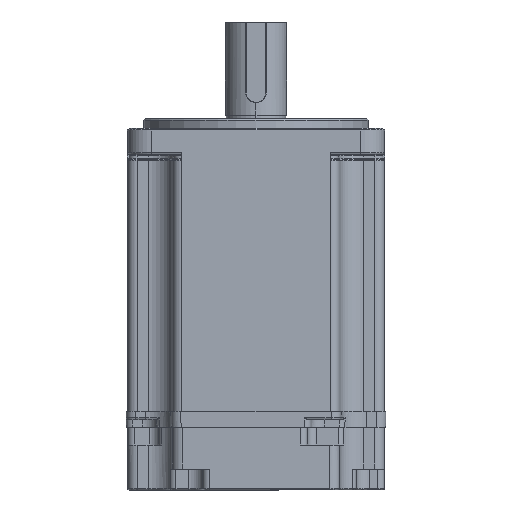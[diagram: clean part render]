
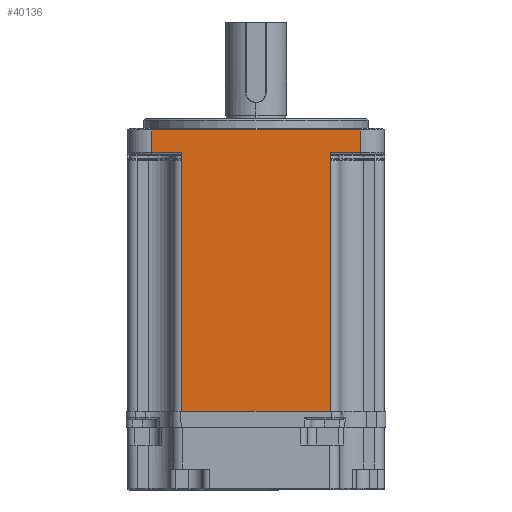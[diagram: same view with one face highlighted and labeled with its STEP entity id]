
A CAD part, front view. The second image highlights one B-rep face of the part: STEP entity #40136.
In plain terms, the highlighted planar face has unit normal (0, -1, 0) as drawn and (0, 1, 0) by its records, which use the part's own axes.
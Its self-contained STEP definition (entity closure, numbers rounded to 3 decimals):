
#38 = VERTEX_POINT ( 'NONE', #16547 ) ;
#919 = EDGE_CURVE ( 'NONE', #53324, #67155, #29741, .T. ) ;
#1593 = PLANE ( 'NONE',  #11967 ) ;
#1724 = VECTOR ( 'NONE', #90506, 1000. ) ;
#3970 = CARTESIAN_POINT ( 'NONE',  ( -23.05, 40., 65. ) ) ;
#4969 = VERTEX_POINT ( 'NONE', #74122 ) ;
#5652 = CARTESIAN_POINT ( 'NONE',  ( -32.5, 40., 65.4 ) ) ;
#9034 = ORIENTED_EDGE ( 'NONE', *, *, #82041, .T. ) ;
#10990 = CARTESIAN_POINT ( 'NONE',  ( -23.05, 40., -15. ) ) ;
#11112 = DIRECTION ( 'NONE',  ( 1., 0., 0. ) ) ;
#11967 = AXIS2_PLACEMENT_3D ( 'NONE', #37495, #59236, #23813 ) ;
#12419 = EDGE_CURVE ( 'NONE', #4969, #19858, #76786, .T. ) ;
#13296 = CARTESIAN_POINT ( 'NONE',  ( 23.05, 40., 65.4 ) ) ;
#15519 = ORIENTED_EDGE ( 'NONE', *, *, #84133, .T. ) ;
#15713 = CARTESIAN_POINT ( 'NONE',  ( 23.05, 40., 65. ) ) ;
#15717 = EDGE_CURVE ( 'NONE', #19858, #38, #42492, .T. ) ;
#15744 = DIRECTION ( 'NONE',  ( 0., 0., -1. ) ) ;
#16503 = CARTESIAN_POINT ( 'NONE',  ( 23.05, 40., 65. ) ) ;
#16547 = CARTESIAN_POINT ( 'NONE',  ( -32.5, 40., 65.4 ) ) ;
#17734 = DIRECTION ( 'NONE',  ( 0., 0., 1. ) ) ;
#18092 = DIRECTION ( 'NONE',  ( 1., 0., 0. ) ) ;
#18562 = LINE ( 'NONE', #10990, #40475 ) ;
#18985 = VERTEX_POINT ( 'NONE', #46736 ) ;
#19858 = VERTEX_POINT ( 'NONE', #37394 ) ;
#20050 = ORIENTED_EDGE ( 'NONE', *, *, #919, .T. ) ;
#21597 = ORIENTED_EDGE ( 'NONE', *, *, #76202, .F. ) ;
#23813 = DIRECTION ( 'NONE',  ( 1., 0., 0. ) ) ;
#26435 = ORIENTED_EDGE ( 'NONE', *, *, #12419, .T. ) ;
#26554 = CARTESIAN_POINT ( 'NONE',  ( 23.05, 40., 65.4 ) ) ;
#27408 = DIRECTION ( 'NONE',  ( -1., 0., 0. ) ) ;
#29741 = LINE ( 'NONE', #16503, #90334 ) ;
#31413 = CARTESIAN_POINT ( 'NONE',  ( -32.5, 40., 65. ) ) ;
#31911 = LINE ( 'NONE', #75920, #53983 ) ;
#32377 = ORIENTED_EDGE ( 'NONE', *, *, #15717, .T. ) ;
#32745 = ORIENTED_EDGE ( 'NONE', *, *, #86945, .T. ) ;
#35227 = VECTOR ( 'NONE', #78576, 1000. ) ;
#35957 = LINE ( 'NONE', #13296, #35227 ) ;
#37394 = CARTESIAN_POINT ( 'NONE',  ( -23.05, 40., 65.4 ) ) ;
#37495 = CARTESIAN_POINT ( 'NONE',  ( 40., 40., 65. ) ) ;
#38476 = EDGE_CURVE ( 'NONE', #66352, #84479, #31911, .T. ) ;
#38505 = LINE ( 'NONE', #31413, #55697 ) ;
#40136 = ADVANCED_FACE ( 'NONE', ( #87673 ), #1593, .F. ) ;
#40475 = VECTOR ( 'NONE', #18092, 1000. ) ;
#41401 = CARTESIAN_POINT ( 'NONE',  ( 23.05, 40., -15. ) ) ;
#42492 = LINE ( 'NONE', #5652, #83119 ) ;
#44552 = CARTESIAN_POINT ( 'NONE',  ( 32.5, 40., 65. ) ) ;
#45842 = EDGE_CURVE ( 'NONE', #38, #66352, #38505, .T. ) ;
#46199 = EDGE_CURVE ( 'NONE', #84479, #18985, #73906, .T. ) ;
#46736 = CARTESIAN_POINT ( 'NONE',  ( 32.5, 40., 65.4 ) ) ;
#47273 = VECTOR ( 'NONE', #78208, 1000. ) ;
#47514 = VERTEX_POINT ( 'NONE', #65296 ) ;
#49636 = CARTESIAN_POINT ( 'NONE',  ( 23.05, 40., 63.1 ) ) ;
#53324 = VERTEX_POINT ( 'NONE', #49636 ) ;
#53983 = VECTOR ( 'NONE', #11112, 1000. ) ;
#55697 = VECTOR ( 'NONE', #17734, 1000. ) ;
#58258 = CARTESIAN_POINT ( 'NONE',  ( -23.05, 40., 65. ) ) ;
#59236 = DIRECTION ( 'NONE',  ( 0., -1., 0. ) ) ;
#63642 = VECTOR ( 'NONE', #74340, 1000. ) ;
#65296 = CARTESIAN_POINT ( 'NONE',  ( -23.05, 40., -15. ) ) ;
#66352 = VERTEX_POINT ( 'NONE', #83440 ) ;
#66754 = LINE ( 'NONE', #15713, #63642 ) ;
#67155 = VERTEX_POINT ( 'NONE', #41401 ) ;
#70788 = VERTEX_POINT ( 'NONE', #26554 ) ;
#72475 = LINE ( 'NONE', #58258, #47273 ) ;
#73906 = LINE ( 'NONE', #44552, #90508 ) ;
#74122 = CARTESIAN_POINT ( 'NONE',  ( -23.05, 40., 63.1 ) ) ;
#74340 = DIRECTION ( 'NONE',  ( 0., 0., -1. ) ) ;
#75920 = CARTESIAN_POINT ( 'NONE',  ( 32.5, 40., 72.5 ) ) ;
#76202 = EDGE_CURVE ( 'NONE', #47514, #67155, #18562, .T. ) ;
#76786 = LINE ( 'NONE', #3970, #1724 ) ;
#77202 = ORIENTED_EDGE ( 'NONE', *, *, #38476, .T. ) ;
#78208 = DIRECTION ( 'NONE',  ( 0., 0., 1. ) ) ;
#78576 = DIRECTION ( 'NONE',  ( -1., 0., 0. ) ) ;
#80848 = DIRECTION ( 'NONE',  ( 0., 0., -1. ) ) ;
#82041 = EDGE_CURVE ( 'NONE', #70788, #53324, #66754, .T. ) ;
#82467 = EDGE_LOOP ( 'NONE', ( #26435, #32377, #93328, #77202, #83094, #15519, #9034, #20050, #21597, #32745 ) ) ;
#83094 = ORIENTED_EDGE ( 'NONE', *, *, #46199, .T. ) ;
#83119 = VECTOR ( 'NONE', #27408, 1000. ) ;
#83440 = CARTESIAN_POINT ( 'NONE',  ( -32.5, 40., 72.5 ) ) ;
#84133 = EDGE_CURVE ( 'NONE', #18985, #70788, #35957, .T. ) ;
#84479 = VERTEX_POINT ( 'NONE', #92924 ) ;
#86945 = EDGE_CURVE ( 'NONE', #47514, #4969, #72475, .T. ) ;
#87673 = FACE_OUTER_BOUND ( 'NONE', #82467, .T. ) ;
#90334 = VECTOR ( 'NONE', #80848, 1000. ) ;
#90506 = DIRECTION ( 'NONE',  ( 0., 0., 1. ) ) ;
#90508 = VECTOR ( 'NONE', #15744, 1000. ) ;
#92924 = CARTESIAN_POINT ( 'NONE',  ( 32.5, 40., 72.5 ) ) ;
#93328 = ORIENTED_EDGE ( 'NONE', *, *, #45842, .T. ) ;
